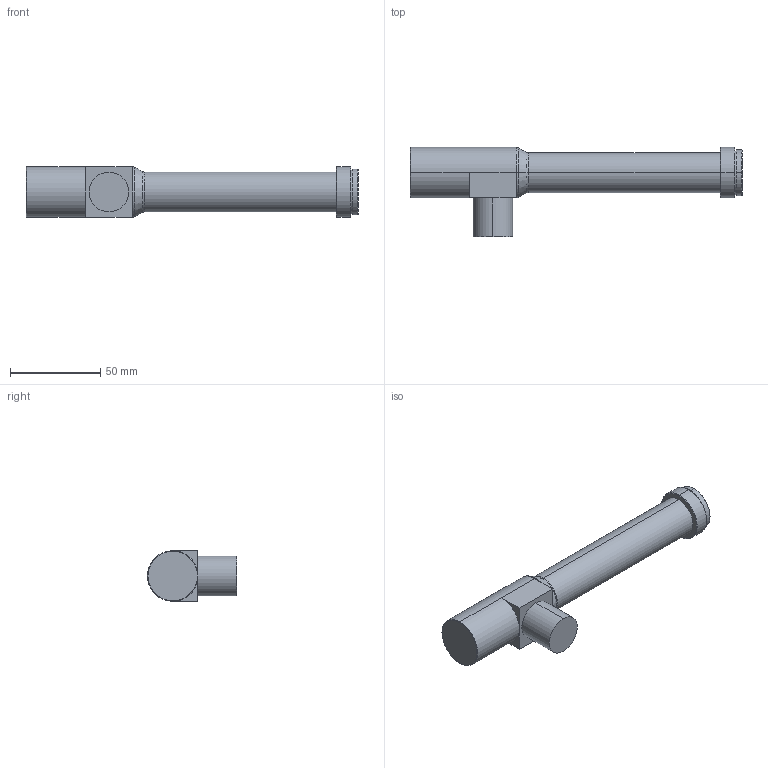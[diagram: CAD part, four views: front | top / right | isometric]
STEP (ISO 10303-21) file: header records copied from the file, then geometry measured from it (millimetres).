
FILE_DESCRIPTION (( 'STEP AP203' ), '1' );
FILE_NAME ('WWH80-63CTV3.STEP', '2021-05-11T02:18:04', ( 'Windows User' ), ( 'P R C' ), 'SwSTEP 2.0', 'SolidWorks 2017', '' );
FILE_SCHEMA (( 'CONFIG_CONTROL_DESIGN' ));
Length unit declared in the file: millimetre
Products named in the file (1): WWH80-63CTV3
Bounding box: 183.9 x 49.4 x 28 mm (x, y, z)
Volume: 97224.5 mm3; surface area: 17574.3 mm2
Topology: 1 solids, 1 shells, 40 faces, 80 edges, 46 vertices
Faces by surface type: cylinder 13, plane 13, cone 10, torus 4
Entity records: 1109 total; most frequent: DIRECTION 206, CARTESIAN_POINT 167, ORIENTED_EDGE 160, AXIS2_PLACEMENT_3D 85, EDGE_CURVE 80, VERTEX_POINT 46, EDGE_LOOP 44, CIRCLE 44
